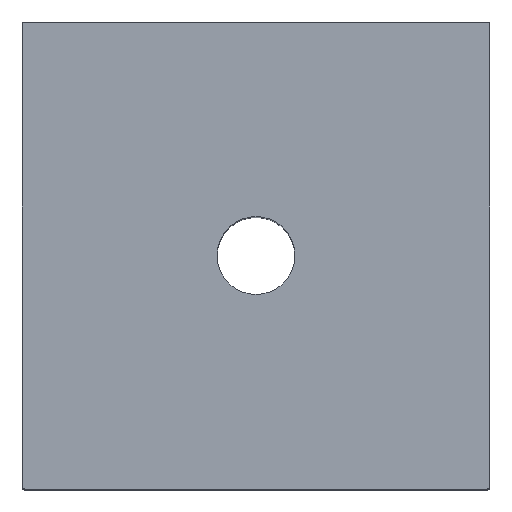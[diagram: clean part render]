
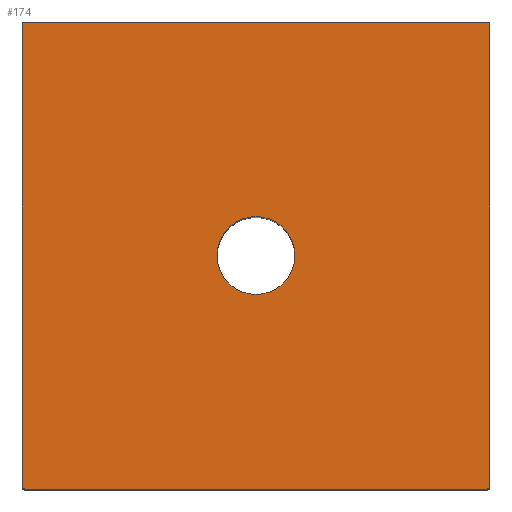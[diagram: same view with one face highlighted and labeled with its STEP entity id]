
A CAD part, top view. The second image highlights one B-rep face of the part: STEP entity #174.
In plain terms, the highlighted planar face has unit normal (0, 0, 1).
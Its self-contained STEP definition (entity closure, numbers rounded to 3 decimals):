
#174=ADVANCED_FACE('',(#213,#214),#202,.T.);
#202=PLANE('',#625);
#213=FACE_BOUND('',#217,.T.);
#214=FACE_BOUND('',#218,.T.);
#217=EDGE_LOOP('',(#323,#324,#325,#326,#327,#328,#329,#330));
#218=EDGE_LOOP('',(#331,#332));
#249=LINE('',#781,#283);
#250=LINE('',#785,#284);
#251=LINE('',#789,#285);
#252=LINE('',#793,#286);
#283=VECTOR('',#670,1.);
#284=VECTOR('',#673,1.);
#285=VECTOR('',#676,1.);
#286=VECTOR('',#679,1.);
#323=ORIENTED_EDGE('',*,*,#531,.T.);
#324=ORIENTED_EDGE('',*,*,#532,.T.);
#325=ORIENTED_EDGE('',*,*,#533,.T.);
#326=ORIENTED_EDGE('',*,*,#534,.T.);
#327=ORIENTED_EDGE('',*,*,#535,.T.);
#328=ORIENTED_EDGE('',*,*,#536,.T.);
#329=ORIENTED_EDGE('',*,*,#537,.T.);
#330=ORIENTED_EDGE('',*,*,#538,.T.);
#331=ORIENTED_EDGE('',*,*,#539,.T.);
#332=ORIENTED_EDGE('',*,*,#540,.T.);
#479=VERTEX_POINT('',#779);
#480=VERTEX_POINT('',#780);
#481=VERTEX_POINT('',#782);
#482=VERTEX_POINT('',#784);
#483=VERTEX_POINT('',#786);
#484=VERTEX_POINT('',#788);
#485=VERTEX_POINT('',#790);
#486=VERTEX_POINT('',#792);
#487=VERTEX_POINT('',#795);
#488=VERTEX_POINT('',#796);
#531=EDGE_CURVE('',#479,#480,#605,.T.);
#532=EDGE_CURVE('',#480,#481,#249,.T.);
#533=EDGE_CURVE('',#481,#482,#606,.T.);
#534=EDGE_CURVE('',#482,#483,#250,.T.);
#535=EDGE_CURVE('',#483,#484,#607,.T.);
#536=EDGE_CURVE('',#484,#485,#251,.T.);
#537=EDGE_CURVE('',#485,#486,#608,.T.);
#538=EDGE_CURVE('',#486,#479,#252,.T.);
#539=EDGE_CURVE('',#487,#488,#609,.T.);
#540=EDGE_CURVE('',#488,#487,#610,.T.);
#605=CIRCLE('',#619,0.5);
#606=CIRCLE('',#620,0.5);
#607=CIRCLE('',#621,0.5);
#608=CIRCLE('',#622,0.5);
#609=CIRCLE('',#623,10.);
#610=CIRCLE('',#624,10.);
#619=AXIS2_PLACEMENT_3D('',#778,#668,#669);
#620=AXIS2_PLACEMENT_3D('',#783,#671,#672);
#621=AXIS2_PLACEMENT_3D('',#787,#674,#675);
#622=AXIS2_PLACEMENT_3D('',#791,#677,#678);
#623=AXIS2_PLACEMENT_3D('',#794,#680,#681);
#624=AXIS2_PLACEMENT_3D('',#797,#682,#683);
#625=AXIS2_PLACEMENT_3D('',#798,#684,#685);
#668=DIRECTION('',(0.,0.,1.));
#669=DIRECTION('',(-0.707,0.707,0.));
#670=DIRECTION('',(0.,1.,0.));
#671=DIRECTION('',(0.,0.,1.));
#672=DIRECTION('',(-0.707,-0.707,0.));
#673=DIRECTION('',(-1.,0.,0.));
#674=DIRECTION('',(0.,0.,1.));
#675=DIRECTION('',(0.707,-0.707,0.));
#676=DIRECTION('',(0.,-1.,0.));
#677=DIRECTION('',(0.,0.,1.));
#678=DIRECTION('',(0.707,0.707,0.));
#679=DIRECTION('',(1.,0.,0.));
#680=DIRECTION('',(0.,0.,-1.));
#681=DIRECTION('',(-1.,0.,0.));
#682=DIRECTION('',(0.,0.,-1.));
#683=DIRECTION('',(1.,0.,0.));
#684=DIRECTION('',(0.,0.,1.));
#685=DIRECTION('',(-1.,0.,0.));
#778=CARTESIAN_POINT('',(59.5,-59.5,143.));
#779=CARTESIAN_POINT('',(59.5,-60.,143.));
#780=CARTESIAN_POINT('',(60.,-59.5,143.));
#781=CARTESIAN_POINT('',(60.,-59.5,143.));
#782=CARTESIAN_POINT('',(60.,59.5,143.));
#783=CARTESIAN_POINT('',(59.5,59.5,143.));
#784=CARTESIAN_POINT('',(59.5,60.,143.));
#785=CARTESIAN_POINT('',(-59.5,60.,143.));
#786=CARTESIAN_POINT('',(-59.5,60.,143.));
#787=CARTESIAN_POINT('',(-59.5,59.5,143.));
#788=CARTESIAN_POINT('',(-60.,59.5,143.));
#789=CARTESIAN_POINT('',(-60.,-59.5,143.));
#790=CARTESIAN_POINT('',(-60.,-59.5,143.));
#791=CARTESIAN_POINT('',(-59.5,-59.5,143.));
#792=CARTESIAN_POINT('',(-59.5,-60.,143.));
#793=CARTESIAN_POINT('',(-59.5,-60.,143.));
#794=CARTESIAN_POINT('',(0.,0.,143.));
#795=CARTESIAN_POINT('',(0.,10.,143.));
#796=CARTESIAN_POINT('',(0.,-10.,143.));
#797=CARTESIAN_POINT('',(0.,0.,143.));
#798=CARTESIAN_POINT('',(59.5,-60.,143.));
